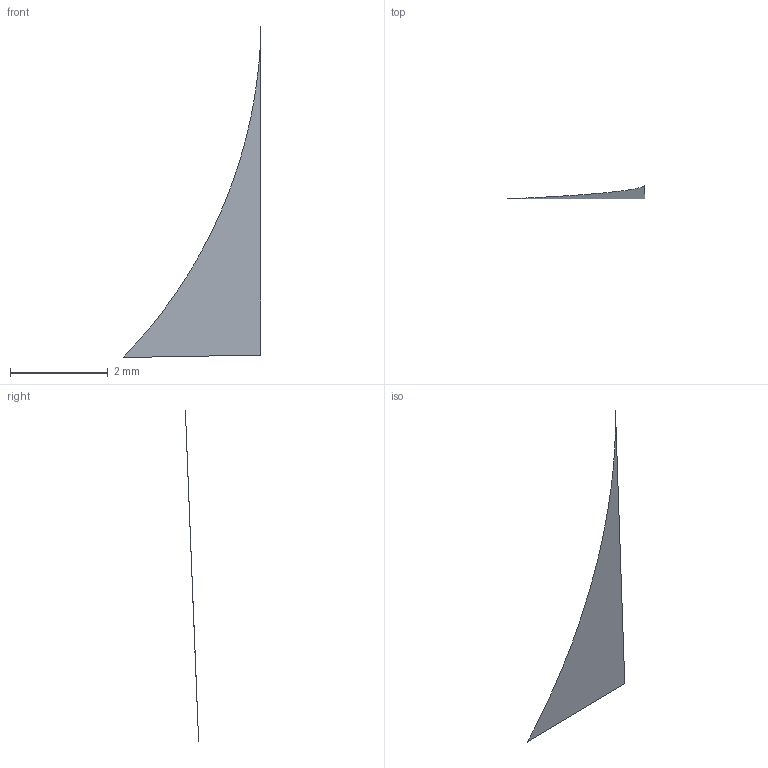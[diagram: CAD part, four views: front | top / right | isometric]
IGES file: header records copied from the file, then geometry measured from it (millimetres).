
Start section: **************** WARNING  :  OPTION IGESSTD REDUCED USED ***************              THE VIEW ROTATED ANGLES ARE INTEGRATED IN THE                  MATRIX DEFINITION ENTITY OF THE VIEWS ************************************************************************
Global section: file name: CTS17806-38038.igs; native system: IBM CATIA IGES - CATIA SOLUTIONS V4RELEASE 1.5 FR 4.1.5; preprocessor: CATIA SOLUTIONS V4RELEASE 1.5 FR 4.1.5; author: det; date: 961216.172559; units: millimetre
Bounding box: 2.83 x 0.27 x 6.79 mm (x, y, z)
Surface area: 5.6 mm2 (no closed solid volume)
Topology: 0 solids, 0 shells, 1 faces, 45 edges, 44 vertices
Faces by surface type: bspline 1
